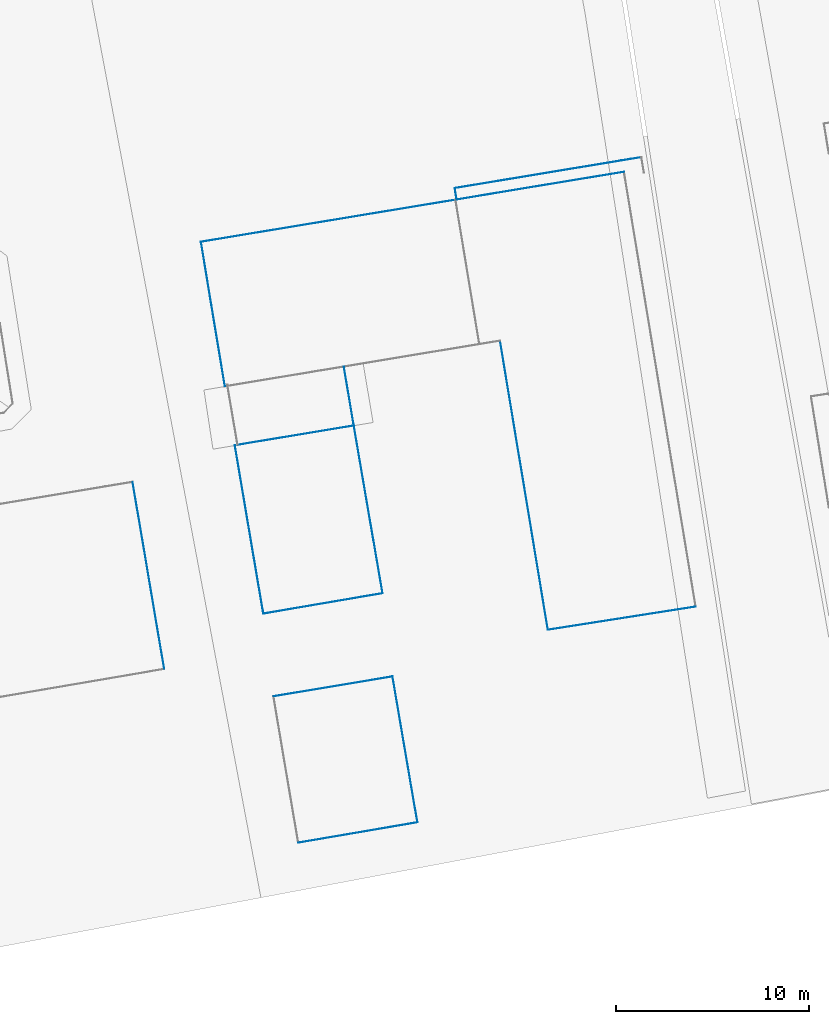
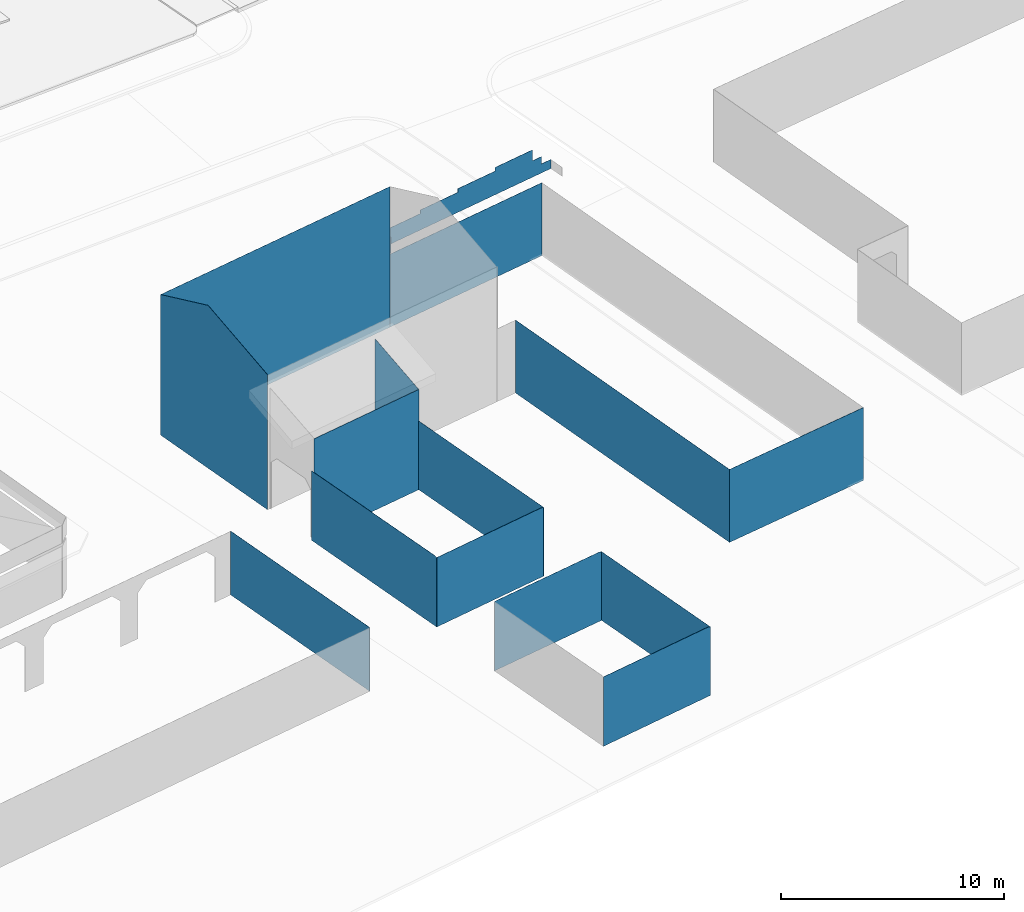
# One storey, part 19 of 75: 16 walls, 2 openings.
"""IFC2X3 building model written with IfcOpenShell, lengths in metres."""

from ifc_helpers import new_model, entity, si_unit, converted_unit, derived_unit, direction, frame, frame_2d, origin, place, context, subcontext, project, spatial, polyline, rectangle, outline, extrude, clip, halfspace, bounded_halfspace, material, layer, layer_set, layer_usage, type_object, element, save


model = new_model("IFC2X3")

# Units and contexts
model_context = context("Model", 3, precision=1e-05, world=origin(), true_north=direction((6.123031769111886e-17, 1.0)))
body_context = subcontext(model_context, "Body", "Model", "MODEL_VIEW")
ifc_project = project(units=[si_unit("LENGTHUNIT", "METRE"), si_unit("AREAUNIT", "SQUARE_METRE"), si_unit("VOLUMEUNIT", "CUBIC_METRE"), converted_unit("PLANEANGLEUNIT", "DEGREE", entity("IfcRatioMeasure", 0.017453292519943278), si_unit("PLANEANGLEUNIT", "RADIAN"), dimensions=[0, 0, 0, 0, 0, 0, 0]), si_unit("MASSUNIT", "GRAM", prefix="KILO"), derived_unit("MASSDENSITYUNIT", [(si_unit("MASSUNIT", "GRAM", prefix="KILO"), 1), (si_unit("LENGTHUNIT", "METRE"), -3)]), derived_unit("IONCONCENTRATIONUNIT", [(si_unit("MASSUNIT", "GRAM", prefix="KILO"), 1), (si_unit("LENGTHUNIT", "METRE"), -3)]), derived_unit("MOMENTOFINERTIAUNIT", [(si_unit("LENGTHUNIT", "METRE"), 4)]), si_unit("TIMEUNIT", "SECOND"), si_unit("FREQUENCYUNIT", "HERTZ"), si_unit("THERMODYNAMICTEMPERATUREUNIT", "DEGREE_CELSIUS"), derived_unit("THERMALTRANSMITTANCEUNIT", [(si_unit("MASSUNIT", "GRAM", prefix="KILO"), 1), (si_unit("THERMODYNAMICTEMPERATUREUNIT", "KELVIN"), -1), (si_unit("TIMEUNIT", "SECOND"), -3)]), derived_unit("THERMALCONDUCTANCEUNIT", [(si_unit("MASSUNIT", "GRAM", prefix="KILO"), 1), (si_unit("THERMODYNAMICTEMPERATUREUNIT", "KELVIN"), -1), (si_unit("TIMEUNIT", "SECOND"), -3), (si_unit("LENGTHUNIT", "METRE"), 1)]), derived_unit("VOLUMETRICFLOWRATEUNIT", [(si_unit("LENGTHUNIT", "METRE"), 3), (si_unit("TIMEUNIT", "SECOND"), -1)]), derived_unit("MASSFLOWRATEUNIT", [(si_unit("MASSUNIT", "GRAM", prefix="KILO"), 1), (si_unit("TIMEUNIT", "SECOND"), -1)]), derived_unit("ROTATIONALFREQUENCYUNIT", [(si_unit("TIMEUNIT", "SECOND"), -1)]), si_unit("ELECTRICCURRENTUNIT", "AMPERE"), si_unit("ELECTRICVOLTAGEUNIT", "VOLT"), si_unit("POWERUNIT", "WATT"), si_unit("FORCEUNIT", "NEWTON", prefix="KILO"), si_unit("ILLUMINANCEUNIT", "LUX"), si_unit("LUMINOUSFLUXUNIT", "LUMEN"), si_unit("LUMINOUSINTENSITYUNIT", "CANDELA"), derived_unit("USERDEFINED", [(si_unit("MASSUNIT", "GRAM", prefix="KILO"), -1), (si_unit("LENGTHUNIT", "METRE"), -2), (si_unit("TIMEUNIT", "SECOND"), 3), (si_unit("LUMINOUSFLUXUNIT", "LUMEN"), 1)]), derived_unit("USERDEFINED", [(si_unit("MASSUNIT", "GRAM", prefix="KILO"), 1), (si_unit("TIMEUNIT", "SECOND"), -3), (si_unit("LENGTHUNIT", "METRE"), 3), (si_unit("ELECTRICCURRENTUNIT", "AMPERE"), -2)]), derived_unit("SOUNDPOWERUNIT", [(si_unit("MASSUNIT", "GRAM", prefix="KILO"), 1), (si_unit("TIMEUNIT", "SECOND"), -3), (si_unit("LENGTHUNIT", "METRE"), 2)]), derived_unit("SOUNDPRESSUREUNIT", [(si_unit("MASSUNIT", "GRAM", prefix="KILO"), 1), (si_unit("LENGTHUNIT", "METRE"), -1), (si_unit("TIMEUNIT", "SECOND"), -2)]), derived_unit("LINEARVELOCITYUNIT", [(si_unit("LENGTHUNIT", "METRE"), 1), (si_unit("TIMEUNIT", "SECOND"), -1)]), si_unit("PRESSUREUNIT", "PASCAL"), derived_unit("USERDEFINED", [(si_unit("MASSUNIT", "GRAM", prefix="KILO"), 1), (si_unit("LENGTHUNIT", "METRE"), -2), (si_unit("TIMEUNIT", "SECOND"), -2)]), derived_unit("LINEARFORCEUNIT", [(si_unit("MASSUNIT", "GRAM", prefix="KILO"), 1), (si_unit("TIMEUNIT", "SECOND"), -2)]), derived_unit("PLANARFORCEUNIT", [(si_unit("MASSUNIT", "GRAM", prefix="KILO"), 1), (si_unit("LENGTHUNIT", "METRE"), -1), (si_unit("TIMEUNIT", "SECOND"), -2)]), derived_unit("SPECIFICHEATCAPACITYUNIT", [(si_unit("THERMODYNAMICTEMPERATUREUNIT", "KELVIN"), -1), (si_unit("LENGTHUNIT", "METRE"), 2), (si_unit("TIMEUNIT", "SECOND"), -2)]), derived_unit("HEATINGVALUEUNIT", [(si_unit("LENGTHUNIT", "METRE"), 2), (si_unit("TIMEUNIT", "SECOND"), -2)]), derived_unit("VAPORPERMEABILITYUNIT", [(si_unit("LENGTHUNIT", "METRE"), -1), (si_unit("TIMEUNIT", "SECOND"), 1)]), derived_unit("DYNAMICVISCOSITYUNIT", [(si_unit("MASSUNIT", "GRAM", prefix="KILO"), 1), (si_unit("TIMEUNIT", "SECOND"), -1), (si_unit("LENGTHUNIT", "METRE"), -1)]), derived_unit("THERMALEXPANSIONCOEFFICIENTUNIT", [(si_unit("THERMODYNAMICTEMPERATUREUNIT", "KELVIN"), -1)]), derived_unit("MODULUSOFELASTICITYUNIT", [(si_unit("MASSUNIT", "GRAM", prefix="KILO"), 1), (si_unit("LENGTHUNIT", "METRE"), -1), (si_unit("TIMEUNIT", "SECOND"), -2)]), derived_unit("ISOTHERMALMOISTURECAPACITYUNIT", [(si_unit("LENGTHUNIT", "METRE"), 3), (si_unit("MASSUNIT", "GRAM", prefix="KILO"), -1)]), derived_unit("MOISTUREDIFFUSIVITYUNIT", [(si_unit("TIMEUNIT", "SECOND"), -1), (si_unit("LENGTHUNIT", "METRE"), 2)])], contexts=[model_context])

# Site, building, storey
site_placement = place(None, origin())
site = spatial("IfcSite", under=ifc_project, at=site_placement, Name="Default", CompositionType="ELEMENT")
building_placement = place(site_placement, origin())
building = spatial("IfcBuilding", under=site, at=building_placement, Name="Projeto", CompositionType="ELEMENT")
storey_placement = place(building_placement, origin())
storey = spatial("IfcBuildingStorey", under=building, at=storey_placement, Name="Nível 1", CompositionType="ELEMENT", Elevation=0.0)

# Walls
ifc_material = material(Name="Metal")
ifc_layer = layer(ifc_material, 0.01)
ifc_layer_set = layer_set([ifc_layer], Name="Parede básica:JA_Aluminio")
ifc_layer_usage_1 = layer_usage(ifc_layer_set, "AXIS2", "POSITIVE", -0.005)
wall_type = type_object("IfcWallType", Name="Parede básica:JA_Aluminio", PredefinedType="STANDARD", material=ifc_layer_set)
wall_1_placement = place(storey_placement, frame((-36.42532307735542, -43.94776288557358, -0.1), z_axis=(0.0, 0.0, 1.0), x_axis=(0.9865877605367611, 0.16323170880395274, 0.0)))
element("IfcWallStandardCase", 1, at=wall_1_placement, inside=storey, type_object=wall_type, material=ifc_layer_usage_1, Name="Parede básica:JA_Aluminio", ObjectType="Parede básica:JA_Aluminio", context=body_context, shape_type="Clipping", body=[
    clip(extrude(outline(polyline([(8.831710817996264, -0.005000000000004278), (8.831716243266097, 0.004999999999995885), (0.0, 0.0049999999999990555), (0.0, -0.0049999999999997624), (0.0049999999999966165, -0.00500000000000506), (8.821710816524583, -0.0049999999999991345), (8.831710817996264, -0.005000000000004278)])), origin(), (0.0, 0.0, 1.0), 4.0), bounded_halfspace(frame((0.06614431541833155, -0.004999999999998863, 4.0), z_axis=(0.0, 0.0, -1.0), x_axis=(1.0, 0.0, 0.0)), True, frame((0.06614431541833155, -0.004999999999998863, 4.0)), polyline([(0.0, 0.0), (8.75556650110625, 0.0), (8.765566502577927, 0.0), (8.76557192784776, 0.009999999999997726), (-5.040152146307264e-06, 0.01000000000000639), (0.0, 0.0)]))),
])
ifc_layer_usage_2 = layer_usage(ifc_layer_set, "AXIS2", "NEGATIVE", 0.005)
wall_2_placement = place(storey_placement, frame((-24.01675508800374, -64.97764429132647, -0.1), z_axis=(0.0, 0.0, 1.0), x_axis=(-0.9879283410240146, -0.15491156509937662, 0.0)))
element("IfcWallStandardCase", 2, at=wall_2_placement, inside=storey, type_object=wall_type, material=ifc_layer_usage_2, Name="Parede básica:JA_Aluminio", ObjectType="Parede básica:JA_Aluminio", context=body_context, shape_type="Clipping", body=[
    clip(extrude(outline(polyline([(7.73182091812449, -0.004999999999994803), (7.731736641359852, 0.004999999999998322), (0.0, 0.005000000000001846), (7.885113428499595e-05, -0.004999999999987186), (7.7218205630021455, -0.0049999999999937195), (7.73182091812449, -0.004999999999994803)])), origin(), (0.0, 0.0, 1.0), 4.0), bounded_halfspace(frame((7.885113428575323e-05, -0.004999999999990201, 4.0), z_axis=(0.0, 0.0, -1.0), x_axis=(-0.9999644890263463, -0.008427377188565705, 0.0)), True, frame((7.885113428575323e-05, -0.004999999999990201, 4.0)), polyline([(0.0, 0.0), (7.7217417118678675, 0.0), (7.731742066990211, 0.0), (7.7316577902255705, 0.01000000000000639), (-7.885113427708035e-05, 0.009999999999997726), (0.0, 0.0)]))),
])
wall_3_placement = place(storey_placement, frame((-49.584134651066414, -46.124898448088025, -0.1), z_axis=(0.0, 0.0, 1.0), x_axis=(0.9865877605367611, 0.16323170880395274, 0.0)))
element("IfcWallStandardCase", 3, at=wall_3_placement, inside=storey, type_object=wall_type, material=ifc_layer_usage_1, Name="Parede básica:JA_Aluminio", ObjectType="Parede básica:JA_Aluminio", context=body_context, shape_type="Clipping", body=[
    clip(extrude(rectangle(XDim=13.337699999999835, YDim=0.009999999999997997, at=frame_2d((6.668849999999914, -2.314554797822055e-15), x_axis=(-1.0, 0.0))), origin(), (0.0, 0.0, 1.0), 7.713138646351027), bounded_halfspace(frame((0.0, -0.004999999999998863, 7.71232232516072), z_axis=(-5.751298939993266e-05, 0.3420201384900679, 0.9396926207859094), x_axis=(-0.9999999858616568, -0.00016815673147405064, 0.0)), False, frame((0.0, -0.004999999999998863, 7.71232232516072)), polyline([(0.0, 0.0), (13.337699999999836, 0.0), (13.33769999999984, 0.009999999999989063), (0.0, 0.009999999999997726), (0.0, 0.0)]))),
])
wall_4_placement = place(storey_placement, frame((-31.65106796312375, -66.1697201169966, -0.1), z_axis=(0.0, 0.0, 1.0), x_axis=(-0.16323170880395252, 0.9865877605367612, 0.0)))
element("IfcWallStandardCase", 4, at=wall_4_placement, inside=storey, type_object=wall_type, material=ifc_layer_usage_2, Name="Parede básica:JA_Aluminio", ObjectType="Parede básica:JA_Aluminio", context=body_context, shape_type="Clipping", body=[
    clip(extrude(outline(polyline([(15.143150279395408, -0.0049999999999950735), (15.143145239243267, 0.005000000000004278), (15.133145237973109, 0.004999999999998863), (8.427676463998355e-05, 0.005000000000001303), (0.0, -0.004999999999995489), (15.143150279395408, -0.0049999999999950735)])), origin(), (0.0, 0.0, 1.0), 4.0), bounded_halfspace(frame((0.0, -0.004999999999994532, 4.0), z_axis=(0.0, 0.0, -1.0), x_axis=(0.0, -1.0, 0.0)), True, frame((0.0, -0.004999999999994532, 4.0)), polyline([(0.0, 0.0), (15.1431502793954, 0.0), (15.14314523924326, 0.009999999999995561), (15.13314523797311, 0.009999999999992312), (8.42767646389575e-05, 0.009999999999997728), (0.0, 0.0)]))),
])
wall_5_placement = place(storey_placement, frame((-49.57838555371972, -46.12901522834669, -0.1), z_axis=(0.0, 0.0, 1.0), x_axis=(0.1632317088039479, -0.986587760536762, 0.0)))
element("IfcWallStandardCase", 5, at=wall_5_placement, inside=storey, type_object=wall_type, material=ifc_layer_usage_1, Name="Parede básica:JA_Aluminio", ObjectType="Parede básica:JA_Aluminio", context=body_context, shape_type="Clipping", body=[
    clip(clip(extrude(outline(polyline([(7.562341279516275, -0.0049999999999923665), (7.562336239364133, 0.005000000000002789), (0.0, 0.004999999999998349), (0.0, -0.004999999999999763), (7.562341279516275, -0.0049999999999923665)])), origin(), (0.0, 0.0, 1.0), 8.932545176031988), bounded_halfspace(frame((0.0, -0.0049999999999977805, 7.71232232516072), z_axis=(-0.34202013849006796, -5.751298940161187e-05, 0.9396926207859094), x_axis=(0.00016815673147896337, -0.999999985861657, 0.0)), False, frame((0.0, -0.0049999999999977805, 7.71232232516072)), polyline([(0.0, 0.0), (3.3525347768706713, 0.0), (3.3525293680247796, 0.009999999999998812), (0.0, 0.010000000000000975), (0.0, 0.0)]))), bounded_halfspace(frame((3.3525347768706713, -0.004999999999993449, 8.932545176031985), z_axis=(0.34202000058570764, 0.0003124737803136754, 0.9396926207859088), x_axis=(-0.0009136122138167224, 0.9999995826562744, 0.0)), False, frame((3.3525347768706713, -0.004999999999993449, 8.932545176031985)), polyline([(0.0, 0.0), (4.209806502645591, 0.0), (4.209801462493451, 0.010000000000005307), (-5.408845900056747e-06, 0.010000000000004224), (0.0, 0.0)]))),
])

# Wall, openings
wall_6_placement = place(storey_placement, frame((-26.81322937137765, -41.74927779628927, 3.9000000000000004), z_axis=(0.0, 0.0, 1.0), x_axis=(-0.9865877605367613, -0.1632317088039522, 0.0)))
wall_6 = element("IfcWallStandardCase", 6, at=wall_6_placement, inside=storey, type_object=wall_type, material=ifc_layer_usage_2, Name="Parede básica:JA_Aluminio", ObjectType="Parede básica:JA_Aluminio", context=body_context, shape_type="Clipping", body=[
    clip(extrude(rectangle(XDim=9.786194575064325, YDim=0.009999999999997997, at=frame_2d((4.8930972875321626, -2.3158558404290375e-16), x_axis=(-1.0, 0.0))), origin(), (0.0, 0.0, 1.0), 1.4999999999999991), halfspace(frame((1.0618518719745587, -0.004999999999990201, 1.4999999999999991), z_axis=(0.0, 0.0, 1.0), x_axis=(0.0, 1.0, 0.0)), False)),
])
opening_1_placement = place(wall_6_placement, origin())
element("IfcOpeningElement", 7, at=opening_1_placement, cuts=wall_6, Name="Parede básica:JA_Aluminio", ObjectType="Opening", context=body_context, shape_type="SweptSolid", body=[
    extrude(outline(polyline([(-0.2999999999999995, -3.271628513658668), (0.30000000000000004, -3.271628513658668), (0.30000000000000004, 3.2691285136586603), (0.10000000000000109, 3.2691285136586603), (0.10000000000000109, 1.0905428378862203), (-0.09999999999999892, 1.0905428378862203), (-0.09999999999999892, -1.0880428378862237), (-0.2999999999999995, -1.0880428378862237), (-0.2999999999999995, -3.271628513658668)])), frame((6.509566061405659, 0.005000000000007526, 1.199999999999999), z_axis=(0.0, -1.0, 0.0), x_axis=(0.0, 0.0, 1.0)), (0.0, 0.0, 1.0), 0.009999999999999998),
])
opening_2_placement = place(wall_6_placement, origin())
element("IfcOpeningElement", 8, at=opening_2_placement, cuts=wall_6, Name="Parede básica:JA_Aluminio", ObjectType="Opening", context=body_context, shape_type="SweptSolid", body=[
    extrude(outline(polyline([(-0.5189506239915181, -0.5333333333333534), (0.5379012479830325, -0.5333333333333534), (0.5379012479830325, 0.4666666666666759), (-0.01895062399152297, 0.4666666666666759), (-0.01895062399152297, 0.0666666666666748), (-0.5189506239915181, 0.0666666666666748), (-0.5189506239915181, -0.5333333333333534)])), frame((0.5429012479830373, 0.005000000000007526, 0.9666666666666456), z_axis=(0.0, -1.0, 0.0), x_axis=(-1.0, 0.0, 0.0)), (0.0, 0.0, 1.0), 0.009999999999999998),
])

# Walls
wall_7_placement = place(storey_placement, frame((-36.462420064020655, -43.35081183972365, 3.9000000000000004), z_axis=(0.0, 0.0, 1.0), x_axis=(0.163231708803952, -0.9865877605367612, 0.0)))
element("IfcWallStandardCase", 9, at=wall_7_placement, inside=storey, type_object=wall_type, material=ifc_layer_usage_2, Name="Parede básica:JA_Aluminio", ObjectType="Parede básica:JA_Aluminio", context=body_context, shape_type="SweptSolid", body=[
    extrude(rectangle(XDim=0.5950000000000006, YDim=0.00999999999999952, at=frame_2d((0.2975000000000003, -2.0469737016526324e-16), x_axis=(-1.0, 0.0))), origin(), (0.0, 0.0, 1.0), 0.899999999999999),
])
wall_8_placement = place(storey_placement, frame((-41.67391376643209, -55.61745284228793, -0.1), z_axis=(0.0, 0.0, 1.0), x_axis=(-0.9864382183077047, -0.16413299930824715, 0.0)))
element("IfcWallStandardCase", 10, at=wall_8_placement, inside=storey, type_object=wall_type, material=ifc_layer_usage_2, Name="Parede básica:JA_Aluminio", ObjectType="Parede básica:JA_Aluminio", context=body_context, shape_type="Clipping", body=[
    clip(extrude(outline(polyline([(6.103360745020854, -0.004999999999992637), (6.1033332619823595, 0.00500000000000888), (0.01000010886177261, 0.005000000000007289), (0.0, 0.005000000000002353), (2.7483038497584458e-05, -0.0049999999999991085), (0.010027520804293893, -0.004999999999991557), (6.093360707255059, -0.004999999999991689), (6.103360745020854, -0.004999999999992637)])), origin(), (0.0, 0.0, 1.0), 5.50363970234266), bounded_halfspace(frame((2.748303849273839e-05, -0.0049999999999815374, 5.503639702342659), z_axis=(0.0, 0.34202014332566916, 0.9396926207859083), x_axis=(-1.0, 0.0, 0.0)), False, frame((2.748303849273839e-05, -0.0049999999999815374, 5.503639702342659)), polyline([(0.0, 0.0), (0.010000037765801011, 0.0), (6.103333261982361, 0.0), (6.1033057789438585, 0.009999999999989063), (-2.748303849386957e-05, 0.009999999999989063), (0.0, 0.0)]))),
])
wall_9_placement = place(storey_placement, frame((-42.19311774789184, -52.579198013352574, -0.1), z_axis=(0.0, 0.0, 1.0), x_axis=(0.16684340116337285, -0.9859834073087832, 0.0)))
element("IfcWallStandardCase", 11, at=wall_9_placement, inside=storey, type_object=wall_type, material=ifc_layer_usage_2, Name="Parede básica:JA_Aluminio", ObjectType="Parede básica:JA_Aluminio", context=body_context, shape_type="Clipping", body=[
    clip(extrude(outline(polyline([(3.077267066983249, -0.004999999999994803), (3.077294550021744, 0.0050000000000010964), (3.1579045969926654e-05, 0.005000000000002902), (0.0, -0.00499999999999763), (3.077267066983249, -0.004999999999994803)])), origin(), (0.0, 0.0, 1.0), 6.623669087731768), bounded_halfspace(frame((0.0, -0.0049999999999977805, 6.623669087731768), z_axis=(0.3420188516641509, -0.0009399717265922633, 0.9396926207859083), x_axis=(0.002748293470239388, 0.9999962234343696, 0.0)), False, frame((0.0, -0.0049999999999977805, 6.623669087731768)), polyline([(0.0, 0.0), (3.07726706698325, 0.0), (3.0772945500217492, 0.009999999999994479), (3.157904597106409e-05, 0.010000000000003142), (0.0, 0.0)]))),
])
wall_10_placement = place(storey_placement, frame((-41.678029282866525, -55.62318271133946, -0.1), z_axis=(0.0, 0.0, 1.0), x_axis=(0.16873398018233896, -0.9856616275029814, 0.0)))
element("IfcWallStandardCase", 12, at=wall_10_placement, inside=storey, type_object=wall_type, material=ifc_layer_usage_2, Name="Parede básica:JA_Aluminio", ObjectType="Parede básica:JA_Aluminio", context=body_context, shape_type="Clipping", body=[
    clip(extrude(outline(polyline([(8.79269319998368, -0.004999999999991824), (8.792693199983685, 0.005000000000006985), (4.6660983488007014e-05, 0.005000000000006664), (0.0, -0.004999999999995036), (8.78269319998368, -0.0049999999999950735), (8.79269319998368, -0.004999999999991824)])), origin(), (0.0, 0.0, 1.0), 3.7706287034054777), bounded_halfspace(frame((0.0, -0.004999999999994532, 3.7706287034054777), z_axis=(0.0004963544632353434, 0.2588185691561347, 0.9659258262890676), x_axis=(-0.9999981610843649, 0.0019177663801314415, 0.0)), False, frame((0.0, -0.004999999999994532, 3.7706287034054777)), polyline([(0.0, 0.0), (8.79269319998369, 0.0), (8.79269319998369, 0.009999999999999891), (4.6660983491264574e-05, 0.010000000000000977), (0.0, 0.0)]))),
])
wall_11_placement = place(storey_placement, frame((-46.35496805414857, -65.34443087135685, -0.1), z_axis=(0.0, 0.0, 1.0), x_axis=(-0.16684340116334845, 0.9859834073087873, 0.0)))
element("IfcWallStandardCase", 13, at=wall_11_placement, inside=storey, type_object=wall_type, material=ifc_layer_usage_2, Name="Parede básica:JA_Aluminio", ObjectType="Parede básica:JA_Aluminio", context=body_context, shape_type="Clipping", body=[
    clip(clip(clip(extrude(outline(polyline([(8.826780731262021, -0.004999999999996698), (8.826780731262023, 0.004999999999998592), (0.0, 0.0049999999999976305), (1.9177699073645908e-05, -0.0049999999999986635), (0.010019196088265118, -0.004999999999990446), (8.826780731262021, -0.004999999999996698)])), origin(), (0.0, 0.0, 1.0), 3.8479557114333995), bounded_halfspace(frame((0.15190785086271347, -0.004999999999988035, 3.8479557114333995), z_axis=(0.004235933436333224, 0.2587843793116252, 0.9659258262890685), x_axis=(-0.9998660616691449, 0.01636639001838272, 0.0)), False, frame((0.15190785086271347, -0.004999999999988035, 3.8479557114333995)), polyline([(0.0, 0.0), (8.669859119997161, 0.0), (8.66988660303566, 0.009999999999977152), (-0.009856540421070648, 0.009999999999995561), (0.0, 0.0)]))), bounded_halfspace(frame((1.9177699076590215e-05, -0.0049999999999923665, 3.807257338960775), z_axis=(-0.2588185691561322, -0.0004963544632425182, 0.9659258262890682), x_axis=(0.001917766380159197, -0.9999981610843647, 0.0)), False, frame((1.9177699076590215e-05, -0.0049999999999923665, 3.807257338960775)), polyline([(0.0, 0.0), (0.010000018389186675, 0.0), (0.15188867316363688, 0.0), (0.14203213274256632, 0.009999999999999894), (-1.917769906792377e-05, 0.009999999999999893), (0.0, 0.0)]))), bounded_halfspace(frame((8.821766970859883, -0.004999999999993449, 3.0), z_axis=(0.0, 0.0, 1.0), x_axis=(0.0, 1.0, 0.0)), False, frame((8.821766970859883, -0.004999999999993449, 3.0)), polyline([(0.0, 0.0), (0.005013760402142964, 0.0), (0.005013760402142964, 0.010000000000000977), (2.7483038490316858e-05, 0.009999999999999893), (0.0, 0.0)]))),
])
wall_12_placement = place(storey_placement, frame((-40.20017514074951, -64.28571836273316, -0.1), z_axis=(0.0, 0.0, 1.0), x_axis=(-0.9856616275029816, -0.16873398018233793, 0.0)))
element("IfcWallStandardCase", 14, at=wall_12_placement, inside=storey, type_object=wall_type, material=ifc_layer_usage_2, Name="Parede básica:JA_Aluminio", ObjectType="Parede básica:JA_Aluminio", context=body_context, shape_type="Clipping", body=[
    clip(clip(extrude(outline(polyline([(6.240164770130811, -0.004999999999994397), (6.2401839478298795, 0.005000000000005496), (0.0, 0.005000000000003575), (0.0, -0.004999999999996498), (6.240164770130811, -0.004999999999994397)])), origin(), (0.0, 0.0, 1.0), 3.8099368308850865), bounded_halfspace(frame((0.0, -0.005000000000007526, 3.76611559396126), z_axis=(-0.2588185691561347, 0.0004963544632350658, 0.9659258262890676), x_axis=(-0.0019177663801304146, -0.9999981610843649, 0.0)), False, frame((0.0, -0.005000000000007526, 3.76611559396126)), polyline([(0.0, 0.0), (0.16354338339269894, 0.0), (0.15356254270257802, 0.01000000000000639), (0.0, 0.009999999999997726), (0.0, 0.0)]))), bounded_halfspace(frame((0.1635433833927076, -0.004999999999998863, 3.8099368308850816), z_axis=(0.0, 0.258819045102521, 0.9659258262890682), x_axis=(-1.0, 0.0, 0.0)), False, frame((0.1635433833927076, -0.004999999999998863, 3.8099368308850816)), polyline([(0.0, 0.0), (6.07662138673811, 0.0), (6.0766405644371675, 0.009999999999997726), (-0.00998084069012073, 0.009999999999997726), (0.0, 0.0)]))),
])
wall_13_placement = place(storey_placement, frame((-39.6816844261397, -68.58252931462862, -0.1), z_axis=(0.0, 0.0, 1.0), x_axis=(0.16873398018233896, -0.9856616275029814, 0.0)))
element("IfcWallStandardCase", 15, at=wall_13_placement, inside=storey, type_object=wall_type, material=ifc_layer_usage_2, Name="Parede básica:JA_Aluminio", ObjectType="Parede básica:JA_Aluminio", context=body_context, shape_type="Clipping", body=[
    clip(extrude(outline(polyline([(7.655980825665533, -0.004999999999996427), (7.655980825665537, 0.005000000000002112), (4.6660983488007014e-05, 0.005000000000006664), (0.0, -0.004999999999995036), (0.01000010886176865, -0.004999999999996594), (7.645980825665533, -0.004999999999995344), (7.655980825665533, -0.004999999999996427)])), origin(), (0.0, 0.0, 1.0), 3.7700445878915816), bounded_halfspace(frame((0.0, -0.005000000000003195, 3.7700445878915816), z_axis=(0.0004963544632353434, 0.2588185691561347, 0.9659258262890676), x_axis=(-0.9999981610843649, 0.0019177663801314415, 0.0)), False, frame((0.0, -0.005000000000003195, 3.7700445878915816)), polyline([(0.0, 0.0), (7.655980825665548, 0.0), (7.65598082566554, 0.010000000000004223), (4.6660983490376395e-05, 0.010000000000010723), (0.0, 0.0)]))),
])
wall_14_placement = place(storey_placement, frame((-38.3956322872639, -76.12465119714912, -0.1), z_axis=(0.0, 0.0, 1.0), x_axis=(-0.9856616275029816, -0.16873398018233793, 0.0)))
element("IfcWallStandardCase", 16, at=wall_14_placement, inside=storey, type_object=wall_type, material=ifc_layer_usage_2, Name="Parede básica:JA_Aluminio", ObjectType="Parede básica:JA_Aluminio", context=body_context, shape_type="Clipping", body=[
    clip(clip(extrude(outline(polyline([(6.240164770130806, -0.004999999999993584), (6.240183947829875, 0.005000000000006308), (0.0, 0.0050000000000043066), (0.0, -0.004999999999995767), (6.240164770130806, -0.004999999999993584)])), origin(), (0.0, 0.0, 1.0), 3.8099368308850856), bounded_halfspace(frame((0.0, -0.0049999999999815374, 3.76611559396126), z_axis=(-0.2588185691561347, 0.0004963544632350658, 0.9659258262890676), x_axis=(-0.0019177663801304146, -0.9999981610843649, 0.0)), False, frame((0.0, -0.0049999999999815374, 3.76611559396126)), polyline([(0.0, 0.0), (0.1635433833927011, 0.0), (0.15356254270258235, 0.009999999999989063), (0.0, 0.009999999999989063), (0.0, 0.0)]))), bounded_halfspace(frame((0.16354338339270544, -0.004999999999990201, 3.8099368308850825), z_axis=(0.0, 0.25881904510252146, 0.9659258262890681), x_axis=(-1.0, 0.0, 0.0)), False, frame((0.16354338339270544, -0.004999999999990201, 3.8099368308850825)), polyline([(0.0, 0.0), (6.076621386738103, 0.0), (6.076640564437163, 0.01000000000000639), (-0.009980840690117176, 0.01000000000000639), (0.0, 0.0)]))),
])
wall_15_placement = place(storey_placement, frame((-39.68574604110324, -68.58829751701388, -0.1), z_axis=(0.0, 0.0, 1.0), x_axis=(-0.9864382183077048, -0.164132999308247, 0.0)))
element("IfcWallStandardCase", 17, at=wall_15_placement, inside=storey, type_object=wall_type, material=ifc_layer_usage_2, Name="Parede básica:JA_Aluminio", ObjectType="Parede básica:JA_Aluminio", context=body_context, shape_type="Clipping", body=[
    clip(clip(extrude(outline(polyline([(6.225560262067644, -0.004999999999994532), (6.22553277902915, 0.00500000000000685), (0.0, 0.005000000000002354), (4.666098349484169e-05, -0.004999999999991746), (6.225560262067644, -0.004999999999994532)])), origin(), (0.0, 0.0, 1.0), 3.8072573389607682), bounded_halfspace(frame((0.0, 0.005000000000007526, 3.7700394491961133), z_axis=(-0.25881806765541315, -0.0007113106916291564, 0.9659258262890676), x_axis=(0.002748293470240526, -0.9999962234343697, 0.0)), False, frame((0.0, 0.005000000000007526, 3.7700394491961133)), polyline([(0.0, 0.0), (4.666098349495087e-05, -0.009999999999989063), (0.12892702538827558, -0.009999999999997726), (0.13889958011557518, 0.0), (0.0, 0.0)]))), bounded_halfspace(frame((6.2255602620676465, -0.004999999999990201, 3.804577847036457), z_axis=(0.0, -0.2588190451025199, 0.9659258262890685), x_axis=(1.0, 0.0, 0.0)), False, frame((6.2255602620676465, -0.004999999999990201, 3.804577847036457)), polyline([(0.0, 0.0), (-2.7483038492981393e-05, 0.01000000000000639), (-6.086660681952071, 0.01000000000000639), (-6.096633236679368, 0.0), (0.0, 0.0)]))),
])
wall_16_placement = place(storey_placement, frame((-51.47718575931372, -68.19467469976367, -0.1), z_axis=(0.0, 0.0, 1.0), x_axis=(-0.16684340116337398, 0.9859834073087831, 0.0)))
element("IfcWallStandardCase", 18, at=wall_16_placement, inside=storey, type_object=wall_type, material=ifc_layer_usage_2, Name="Parede básica:JA_Aluminio", ObjectType="Parede básica:JA_Aluminio", context=body_context, shape_type="Clipping", body=[
    clip(extrude(outline(polyline([(9.792635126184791, -0.00499999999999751), (9.792662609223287, 0.004999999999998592), (0.0, 0.0049999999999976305), (1.9177699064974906e-05, -0.004999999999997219), (9.792635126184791, -0.00499999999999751)])), origin(), (0.0, 0.0, 1.0), 3.5000000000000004), bounded_halfspace(frame((1.917769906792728e-05, -0.004999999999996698, 3.5000000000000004), z_axis=(0.0, 0.0, -1.0), x_axis=(0.9998660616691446, -0.016366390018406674, 0.0)), True, frame((1.917769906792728e-05, -0.004999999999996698, 3.5000000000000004)), polyline([(0.0, 0.0), (9.792615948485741, 0.0), (9.792643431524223, 0.009999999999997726), (-1.917769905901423e-05, 0.00999999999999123), (0.0, 0.0)]))),
])

save(model, "model.ifc")
